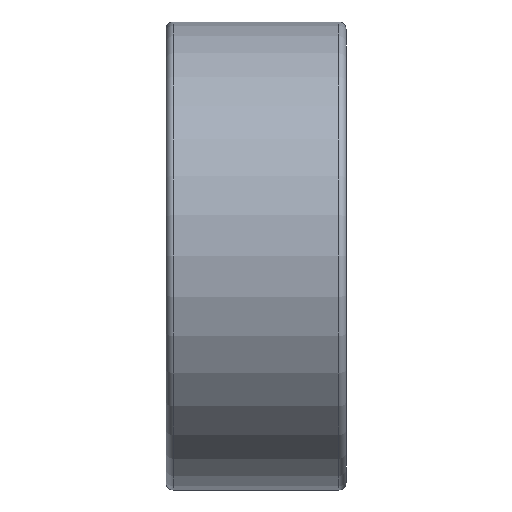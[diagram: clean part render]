
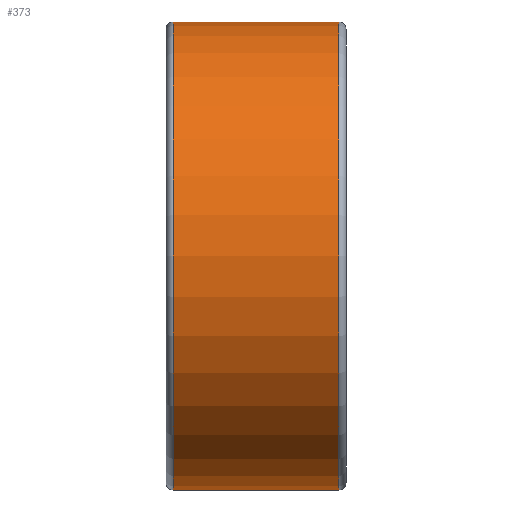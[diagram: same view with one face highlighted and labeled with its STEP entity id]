
A CAD part, front view. The second image highlights one B-rep face of the part: STEP entity #373.
In plain terms, the highlighted cylindrical face has radius 6.5 mm (diameter 13 mm), a full revolution.
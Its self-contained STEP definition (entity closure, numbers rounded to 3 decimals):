
#59=LINE('',#761,#65);
#65=VECTOR('',#623,6.5);
#71=CYLINDRICAL_SURFACE('',#501,6.5);
#99=FACE_OUTER_BOUND('',#122,.T.);
#122=EDGE_LOOP('',(#313,#314,#315,#316,#317,#318));
#155=CIRCLE('',#497,6.5);
#156=CIRCLE('',#498,6.5);
#159=CIRCLE('',#502,6.5);
#160=CIRCLE('',#503,6.5);
#193=VERTEX_POINT('',#750);
#194=VERTEX_POINT('',#751);
#196=VERTEX_POINT('',#758);
#197=VERTEX_POINT('',#759);
#235=EDGE_CURVE('',#193,#194,#155,.T.);
#236=EDGE_CURVE('',#194,#193,#156,.T.);
#239=EDGE_CURVE('',#196,#197,#159,.T.);
#240=EDGE_CURVE('',#196,#193,#59,.T.);
#241=EDGE_CURVE('',#197,#196,#160,.T.);
#313=ORIENTED_EDGE('',*,*,#239,.F.);
#314=ORIENTED_EDGE('',*,*,#240,.T.);
#315=ORIENTED_EDGE('',*,*,#235,.T.);
#316=ORIENTED_EDGE('',*,*,#236,.T.);
#317=ORIENTED_EDGE('',*,*,#240,.F.);
#318=ORIENTED_EDGE('',*,*,#241,.F.);
#373=ADVANCED_FACE('',(#99),#71,.T.);
#497=AXIS2_PLACEMENT_3D('',#752,#611,#612);
#498=AXIS2_PLACEMENT_3D('',#753,#613,#614);
#501=AXIS2_PLACEMENT_3D('',#757,#619,#620);
#502=AXIS2_PLACEMENT_3D('',#760,#621,#622);
#503=AXIS2_PLACEMENT_3D('',#762,#624,#625);
#611=DIRECTION('center_axis',(1.,0.,0.));
#612=DIRECTION('ref_axis',(0.,0.,-1.));
#613=DIRECTION('center_axis',(1.,0.,0.));
#614=DIRECTION('ref_axis',(0.,0.,-1.));
#619=DIRECTION('center_axis',(1.,0.,0.));
#620=DIRECTION('ref_axis',(0.,1.,0.));
#621=DIRECTION('center_axis',(1.,0.,0.));
#622=DIRECTION('ref_axis',(0.,0.,-1.));
#623=DIRECTION('',(-1.,0.,0.));
#624=DIRECTION('center_axis',(1.,0.,0.));
#625=DIRECTION('ref_axis',(0.,0.,-1.));
#750=CARTESIAN_POINT('',(0.2,-6.5,0.));
#751=CARTESIAN_POINT('',(0.2,0.,6.5));
#752=CARTESIAN_POINT('Origin',(0.2,0.,0.));
#753=CARTESIAN_POINT('Origin',(0.2,0.,0.));
#757=CARTESIAN_POINT('Origin',(2.5,0.,0.));
#758=CARTESIAN_POINT('',(4.8,-6.5,0.));
#759=CARTESIAN_POINT('',(4.8,0.,6.5));
#760=CARTESIAN_POINT('Origin',(4.8,0.,0.));
#761=CARTESIAN_POINT('',(2.5,-6.5,0.));
#762=CARTESIAN_POINT('Origin',(4.8,0.,0.));
